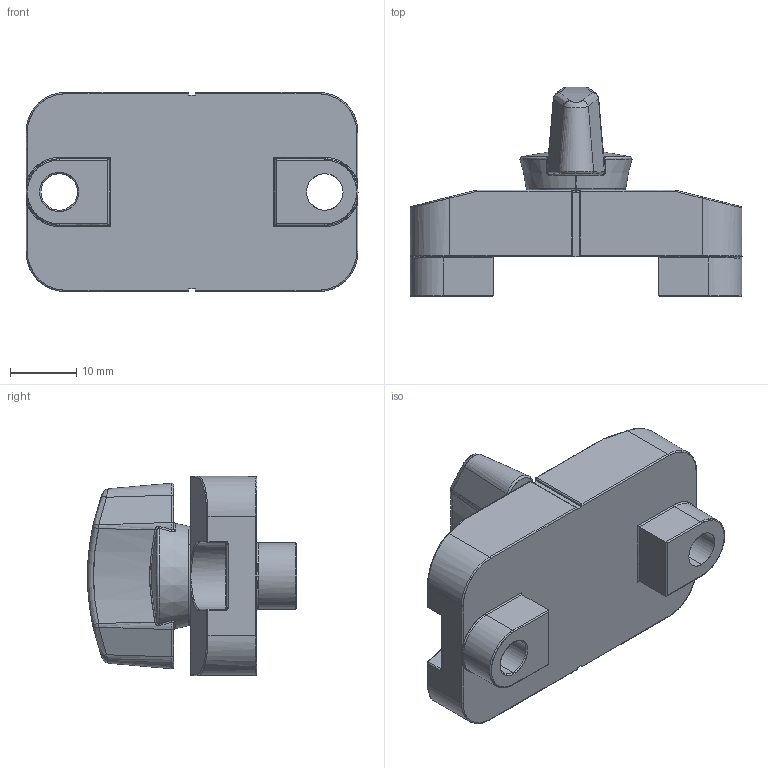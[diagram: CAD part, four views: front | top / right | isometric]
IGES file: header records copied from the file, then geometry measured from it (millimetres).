
Start section: SolidWorks IGES file using analytic representation for surfaces
Global section: file name: C:\Users\liam_\OneDrive\Documents\WORK\Work for WixRoyd\Job Files\J-00027 - IOWA CAD Modelling\04. CAD Drawings\33970_v1_20191216\33970_v1_20291216_IGES\33970.W1106.igs; native system: SolidWorks 2017; preprocessor: SolidWorks 2017; author: liam_; date: 200210.214508; units: millimetre
Bounding box: 50 x 31.5 x 30 mm (x, y, z)
Surface area: 6740 mm2 (no closed solid volume)
Topology: 0 solids, 0 shells, 310 faces, 2868 edges, 2855 vertices
Faces by surface type: bspline 206, revolution 104
